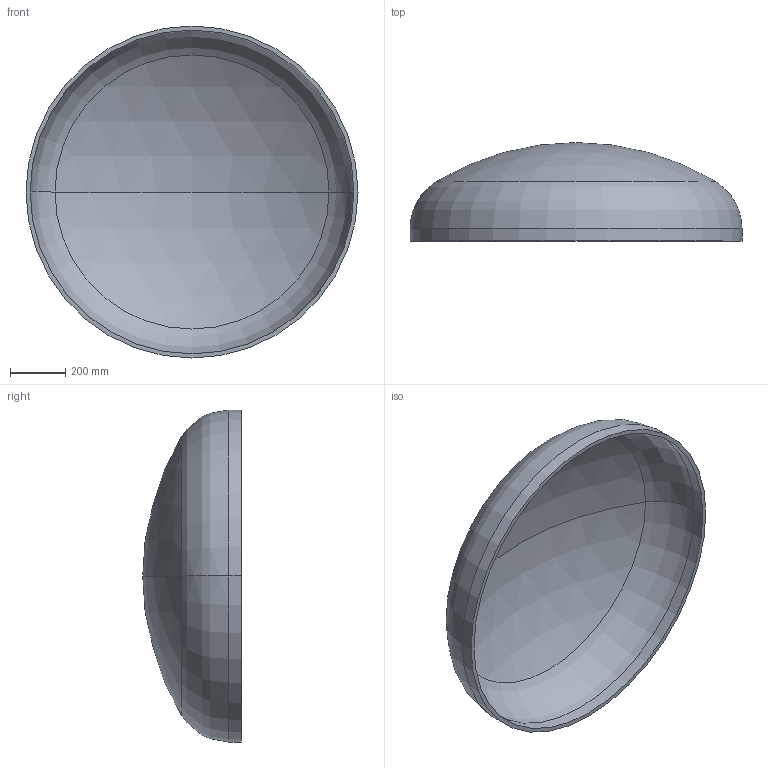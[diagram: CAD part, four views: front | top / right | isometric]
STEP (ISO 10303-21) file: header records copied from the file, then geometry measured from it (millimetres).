
FILE_DESCRIPTION (( 'STEP AP203' ), '1' );
FILE_NAME ('DIN 28013 Korbbogenform_-_Boden DIN 28013 - 1200 x 45 - I - s=15.step', '2016-07-01T09:21:54', ( '' ), ( '' ), 'SwSTEP 2.0', 'SolidWorks 2013', '' );
FILE_SCHEMA (( 'CONFIG_CONTROL_DESIGN' ));
Length unit declared in the file: millimetre
Products named in the file (1): DIN 28013 Korbbogenform_-_Boden DIN 28013 - 1200 x 45 - I - s=15
Bounding box: 1200 x 356.2 x 1200 mm (x, y, z)
Volume: 25628459 mm3; surface area: 3473439.7 mm2
Topology: 1 solids, 1 shells, 13 faces, 24 edges, 14 vertices
Faces by surface type: torus 4, cylinder 4, sphere 4, plane 1
Entity records: 407 total; most frequent: DIRECTION 72, CARTESIAN_POINT 52, ORIENTED_EDGE 48, AXIS2_PLACEMENT_3D 34, EDGE_CURVE 24, CIRCLE 20, EDGE_LOOP 14, VERTEX_POINT 14
